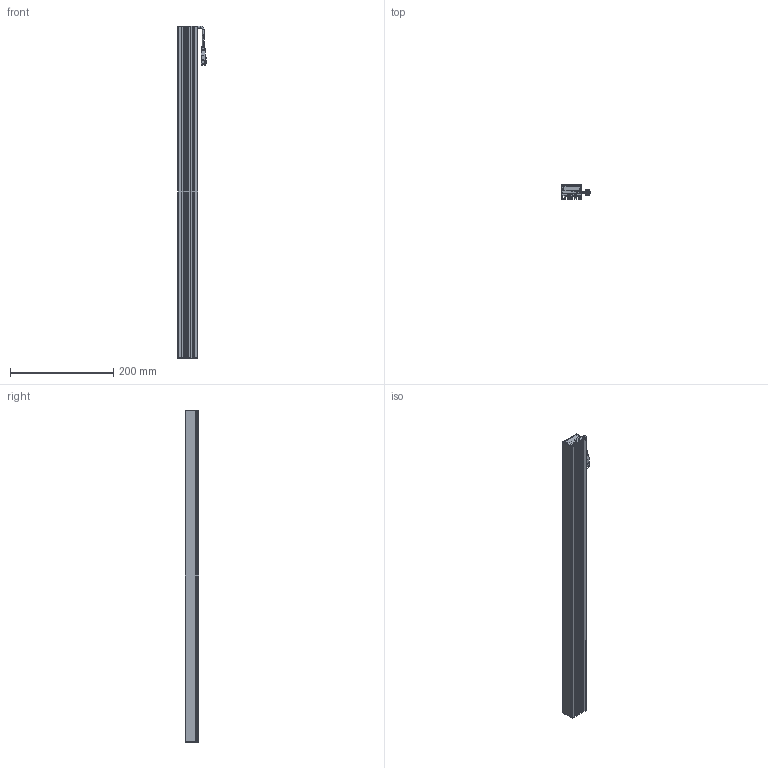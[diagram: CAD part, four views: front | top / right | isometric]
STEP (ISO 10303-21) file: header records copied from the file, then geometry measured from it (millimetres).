
FILE_DESCRIPTION (( 'STEP AP203' ), '1' );
FILE_NAME ('LBD-642L-潠眢3D芞.STEP', '2021-06-16T08:22:14', ( 'Windows 蚚誧' ), ( 'Organization' ), 'SwSTEP 2.0', 'SolidWorks 2018', '' );
FILE_SCHEMA (( 'CONFIG_CONTROL_DESIGN' ));
Length unit declared in the file: millimetre
Products named in the file (1): LBD-642L-潠眢3D芞
Bounding box: 54.16 x 27 x 642 mm (x, y, z)
Surface area: 237942.4 mm2 (no closed solid volume)
Topology: 0 solids, 8 shells, 889 faces, 2541 edges, 1653 vertices
Faces by surface type: plane 458, cylinder 369, cone 28, bspline 28, torus 6
Entity records: 29635 total; most frequent: CARTESIAN_POINT 5977, ORIENTED_EDGE 5003, DIRECTION 4968, EDGE_CURVE 2525, LINE 1676, VECTOR 1676, VERTEX_POINT 1653, AXIS2_PLACEMENT_3D 1646
